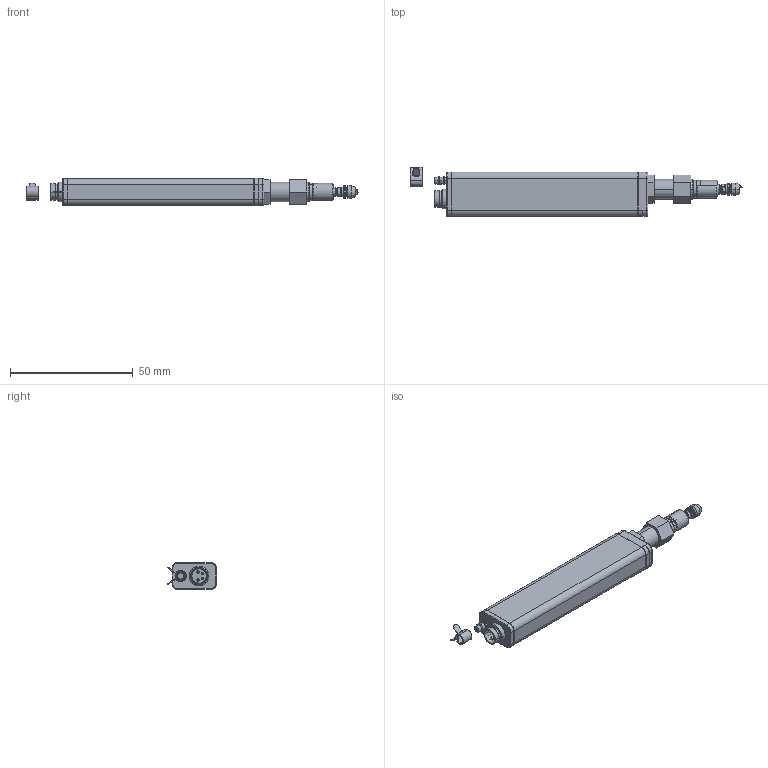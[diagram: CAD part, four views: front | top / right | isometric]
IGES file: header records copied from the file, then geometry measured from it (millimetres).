
Start section: SolidWorks IGES file using analytic representation for surfaces
Global section: file name: S:\秘　SolidWorks\外観データ\Iges\SA-Sx10PD_iges_01.IGS; native system: SolidWorks 2016; preprocessor: SolidWorks 2016; author: mizukoshi; date: 200127.090439; units: millimetre
Bounding box: 135.42 x 19.99 x 11.2 mm (x, y, z)
Surface area: 7803.3 mm2 (no closed solid volume)
Topology: 0 solids, 0 shells, 323 faces, 4117 edges, 4106 vertices
Faces by surface type: revolution 171, bspline 152
